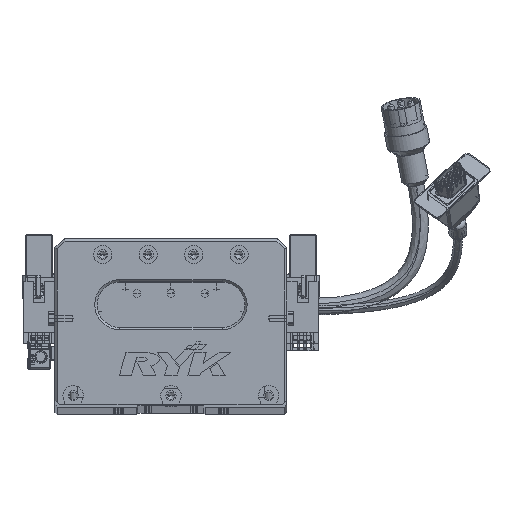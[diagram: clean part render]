
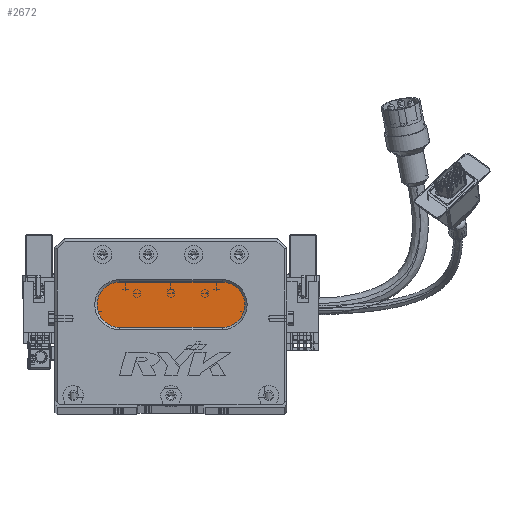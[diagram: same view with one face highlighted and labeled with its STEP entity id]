
A CAD part, top view. The second image highlights one B-rep face of the part: STEP entity #2672.
In plain terms, the highlighted planar face has unit normal (0, 0, 1) as drawn and (0, 0, -1) by its records, which use the part's own axes.
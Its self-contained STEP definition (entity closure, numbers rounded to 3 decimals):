
#2672 = ADVANCED_FACE ( 'NONE', ( #4990 ), #52402, .T. ) ;
#3385 = EDGE_CURVE ( 'NONE', #47073, #75835, #48811, .T. ) ;
#4990 = FACE_OUTER_BOUND ( 'NONE', #12338, .T. ) ;
#5119 = EDGE_CURVE ( 'NONE', #29479, #73436, #29499, .T. ) ;
#5890 = DIRECTION ( 'NONE',  ( 0., 0., -1. ) ) ;
#8329 = VERTEX_POINT ( 'NONE', #64507 ) ;
#12030 = DIRECTION ( 'NONE',  ( -1., 0., 0. ) ) ;
#12338 = EDGE_LOOP ( 'NONE', ( #66941, #29555, #25133, #65470, #18547 ) ) ;
#15142 = CARTESIAN_POINT ( 'NONE',  ( 28.5, 44., 13. ) ) ;
#18189 = CARTESIAN_POINT ( 'NONE',  ( 28.5, 44., 13. ) ) ;
#18547 = ORIENTED_EDGE ( 'NONE', *, *, #41080, .T. ) ;
#21247 = DIRECTION ( 'NONE',  ( -1., 0., 0. ) ) ;
#21279 = DIRECTION ( 'NONE',  ( 0., 0., -1. ) ) ;
#23886 = AXIS2_PLACEMENT_3D ( 'NONE', #79068, #5890, #12030 ) ;
#25133 = ORIENTED_EDGE ( 'NONE', *, *, #3385, .T. ) ;
#26152 = EDGE_CURVE ( 'NONE', #73436, #47073, #68400, .T. ) ;
#26881 = DIRECTION ( 'NONE',  ( -1., 0., 0. ) ) ;
#29479 = VERTEX_POINT ( 'NONE', #58908 ) ;
#29499 = CIRCLE ( 'NONE', #23886, 10. ) ;
#29555 = ORIENTED_EDGE ( 'NONE', *, *, #26152, .T. ) ;
#32196 = CARTESIAN_POINT ( 'NONE',  ( 18.5, 44., 13. ) ) ;
#35892 = VECTOR ( 'NONE', #21247, 1000. ) ;
#40381 = CARTESIAN_POINT ( 'NONE',  ( 73.5, 44., 13. ) ) ;
#41080 = EDGE_CURVE ( 'NONE', #8329, #29479, #46347, .T. ) ;
#41442 = CIRCLE ( 'NONE', #72037, 10. ) ;
#41621 = AXIS2_PLACEMENT_3D ( 'NONE', #40381, #58067, #58604 ) ;
#44677 = CARTESIAN_POINT ( 'NONE',  ( 73.5, 34., 13. ) ) ;
#46347 = LINE ( 'NONE', #53665, #65530 ) ;
#47073 = VERTEX_POINT ( 'NONE', #59151 ) ;
#48811 = CIRCLE ( 'NONE', #50397, 10. ) ;
#50397 = AXIS2_PLACEMENT_3D ( 'NONE', #18189, #66776, #67821 ) ;
#52183 = CARTESIAN_POINT ( 'NONE',  ( 73.5, 34., 13. ) ) ;
#52402 = PLANE ( 'NONE',  #41621 ) ;
#53665 = CARTESIAN_POINT ( 'NONE',  ( 73.5, 54., 13. ) ) ;
#58067 = DIRECTION ( 'NONE',  ( 0., 0., -1. ) ) ;
#58604 = DIRECTION ( 'NONE',  ( -1., 0., 0. ) ) ;
#58908 = CARTESIAN_POINT ( 'NONE',  ( 73.5, 54., 13. ) ) ;
#59151 = CARTESIAN_POINT ( 'NONE',  ( 28.5, 34., 13. ) ) ;
#64507 = CARTESIAN_POINT ( 'NONE',  ( 28.5, 54., 13. ) ) ;
#65470 = ORIENTED_EDGE ( 'NONE', *, *, #74622, .T. ) ;
#65530 = VECTOR ( 'NONE', #72084, 1000. ) ;
#66776 = DIRECTION ( 'NONE',  ( 0., 0., -1. ) ) ;
#66941 = ORIENTED_EDGE ( 'NONE', *, *, #5119, .T. ) ;
#67821 = DIRECTION ( 'NONE',  ( -1., 0., 0. ) ) ;
#68400 = LINE ( 'NONE', #52183, #35892 ) ;
#72037 = AXIS2_PLACEMENT_3D ( 'NONE', #15142, #21279, #26881 ) ;
#72084 = DIRECTION ( 'NONE',  ( 1., 0., 0. ) ) ;
#73436 = VERTEX_POINT ( 'NONE', #44677 ) ;
#74622 = EDGE_CURVE ( 'NONE', #75835, #8329, #41442, .T. ) ;
#75835 = VERTEX_POINT ( 'NONE', #32196 ) ;
#79068 = CARTESIAN_POINT ( 'NONE',  ( 73.5, 44., 13. ) ) ;
